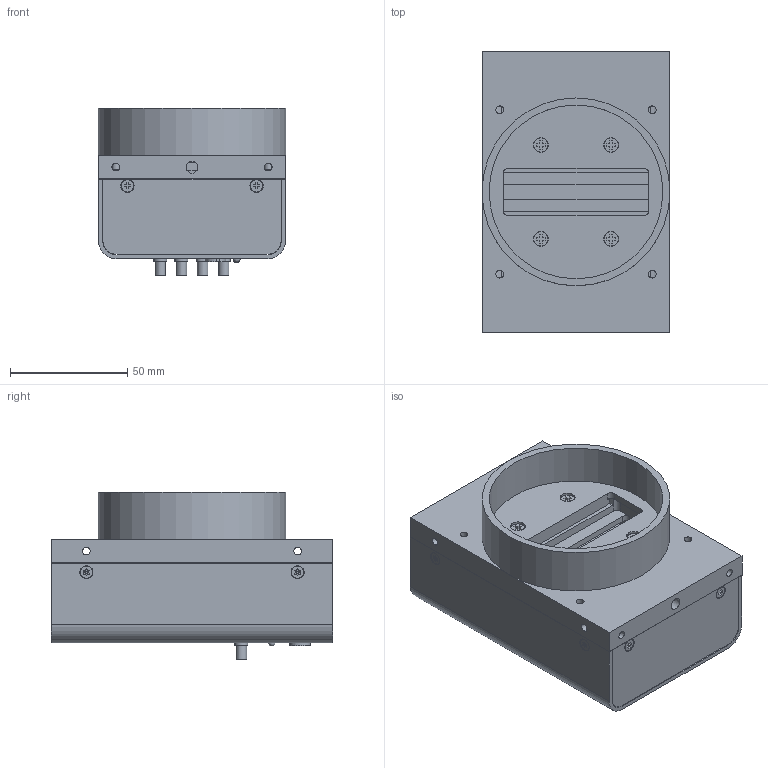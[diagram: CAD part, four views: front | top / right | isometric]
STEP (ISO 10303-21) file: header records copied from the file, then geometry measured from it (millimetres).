
FILE_DESCRIPTION (( 'STEP AP203' ), '1' );
FILE_NAME ('C7-1002-00-46／RMDL8K83CP／RMSL16K76CP外形図.STEP', '2021-08-06T00:51:37', ( '' ), ( '' ), 'SwSTEP 2.0', 'SolidWorks 2020', '' );
FILE_SCHEMA (( 'CONFIG_CONTROL_DESIGN' ));
Products named in the file (1): C7-1002-00-46／RMDL8K83CP／RMSL16K76CP外形図
Bounding box: 80 x 120 x 71.2 mm (x, y, z)
Surface area: 66073.1 mm2 (no closed solid volume)
Topology: 0 solids, 1233 shells, 4809 faces, 23579 edges, 19514 vertices
Faces by surface type: plane 3913, bspline 582, cylinder 286, cone 27, sphere 1
Full cylindrical faces by diameter (mm): 0.5 x6, 0.8 x2, 1 x4, 1.7 x1, 3 x1, 3.3 x12, 3.5 x4, 4.5 x4, 5.105 x1, 5.2 x4, 5.5 x6, 5.6 x1, 6.3 x4, 8.5 x4, 8.85 x1, 11.2 x1, 74 x1, 80 x1
Entity records: 288820 total; most frequent: CARTESIAN_POINT 119226, ORIENTED_EDGE 29019, DIRECTION 28672, EDGE_CURVE 23487, VERTEX_POINT 19497, LINE 18264, VECTOR 18264, EDGE_LOOP 5520
